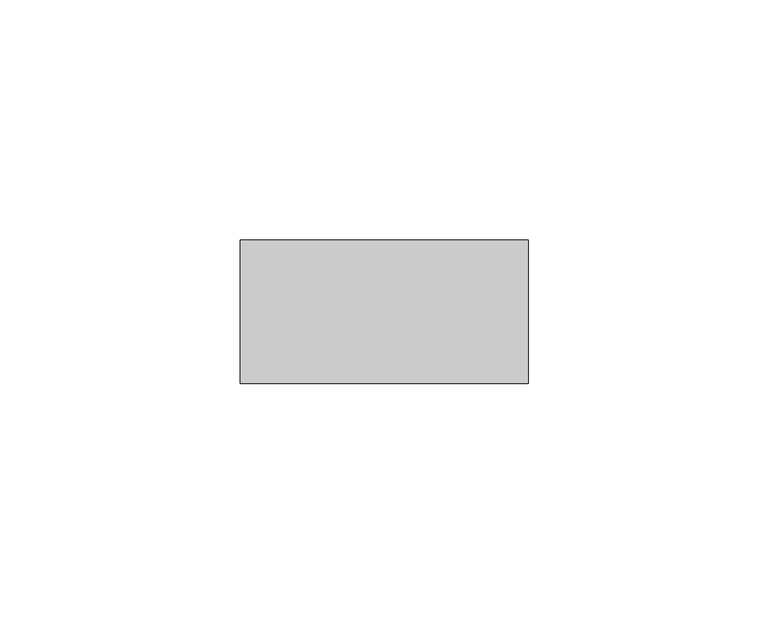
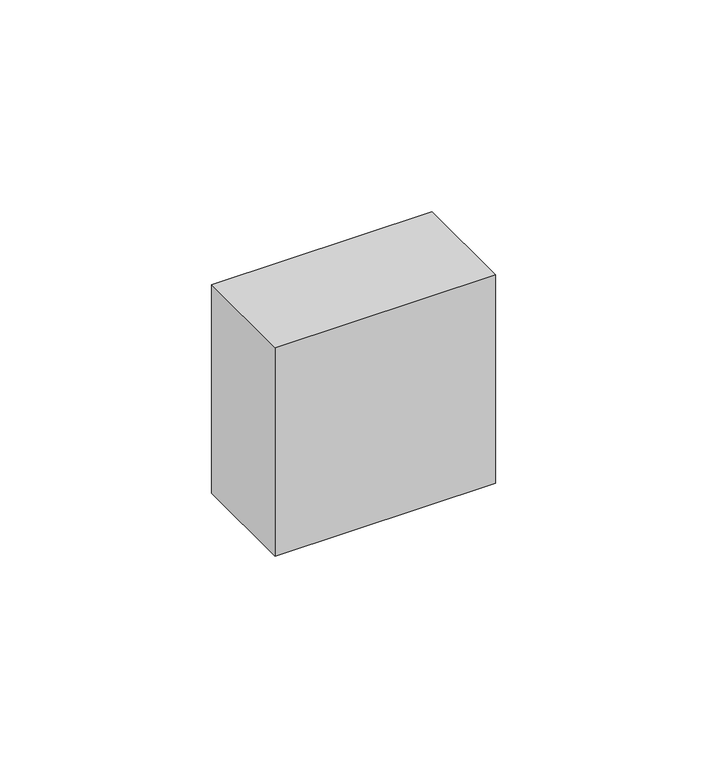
"""IFC4 building model written with IfcOpenShell, lengths in millimetres: member geometry, Прямоугольный импост : Квадрат 30 мм."""

from ifc_helpers import new_model, si_unit, frame, origin, place, context, project, spatial, polyline, outline, extrude, source, transform, mapped, element, save


def member_68ea5ec1(model_context):
    return source(origin(), model_context, "Body", "SweptSolid", [
        extrude(outline(polyline([(30.0, 15.0), (30.0, -15.0), (-30.0, -15.0), (-30.0, 15.0), (30.0, 15.0)])), frame((0.0, 0.0, -60.0), z_axis=(0.0, 0.0, 1.0), x_axis=(1.0, 0.0, 0.0)), (0.0, 0.0, 1.0), 60.0),
    ])


if __name__ == "__main__":
    model = new_model("IFC4")
    model_context = context("Model", 3, world=origin())
    ifc_project = project(units=[si_unit("LENGTHUNIT", "METRE", prefix="MILLI")], contexts=[model_context])
    site = spatial("IfcSite", under=ifc_project)
    building = spatial("IfcBuilding", under=site)
    placement = place(None, origin())
    member_shape = member_68ea5ec1(model_context)
    element("IfcMember", 1, ObjectType="Прямоугольный импост : Квадрат 30 мм", at=placement, inside=building, context=model_context, shape_type="MappedRepresentation", body=[
        mapped(member_shape, transform((0.0, 0.0, 0.0), x_axis=(1.0, 0.0, 0.0), y_axis=(0.0, 1.0, 0.0), z_axis=(0.0, 0.0, 1.0))),
    ])
    save(model, "model.ifc")
